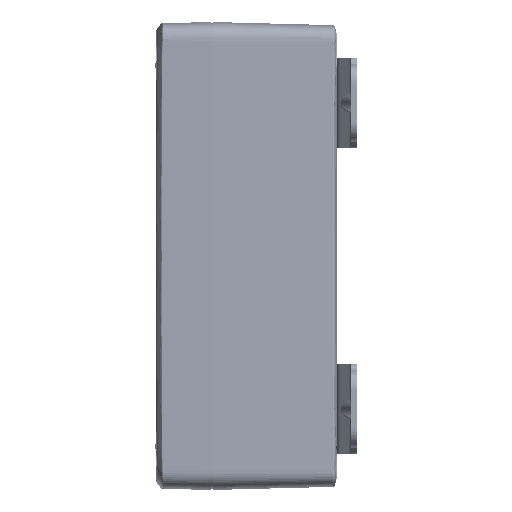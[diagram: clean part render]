
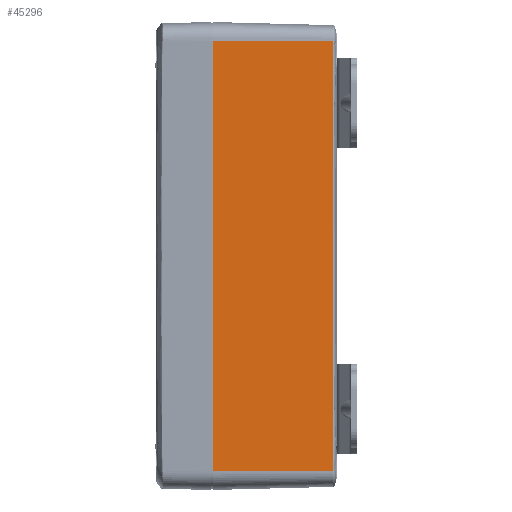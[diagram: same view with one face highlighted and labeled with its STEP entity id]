
A CAD part, left-side view. The second image highlights one B-rep face of the part: STEP entity #45296.
In plain terms, the highlighted planar face has unit normal (-1, -0.026, 0).
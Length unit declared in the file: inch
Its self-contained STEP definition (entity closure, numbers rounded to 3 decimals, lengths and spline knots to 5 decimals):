
#2660 = CARTESIAN_POINT ( 'NONE',  ( -4.5625, 1.715, -2.98495 ) ) ;
#8266 = CARTESIAN_POINT ( 'NONE',  ( -4.5625, 1.715, 2.98495 ) ) ;
#10398 = CARTESIAN_POINT ( 'NONE',  ( -4.51882, 0.04699, 0.99498 ) ) ;
#14440 = CARTESIAN_POINT ( 'NONE',  ( -4.5625, 1.715, -2.98495 ) ) ;
#18766 = CARTESIAN_POINT ( 'NONE',  ( -4.51882, 0.04698, -2.98495 ) ) ;
#30718 = PLANE ( 'NONE',  #148466 ) ;
#32164 = VERTEX_POINT ( 'NONE', #133008 ) ;
#35181 = VECTOR ( 'NONE', #101645, 39.37008 ) ;
#37417 = B_SPLINE_CURVE_WITH_KNOTS ( 'NONE', 3,
 ( #113506, #73434, #10398, #114338 ),
 .UNSPECIFIED., .F., .F.,
 ( 4, 4 ),
 ( 0., 1. ),
 .UNSPECIFIED. ) ;
#45296 = ADVANCED_FACE ( 'Face2', ( #145814 ), #30718, .T. ) ;
#49684 = CARTESIAN_POINT ( 'NONE',  ( -4.5625, 1.715, -2.98495 ) ) ;
#52523 = EDGE_CURVE ( 'NONE', #32164, #81071, #124994, .T. ) ;
#53890 = VECTOR ( 'NONE', #147274, 39.37008 ) ;
#71384 = CARTESIAN_POINT ( 'NONE',  ( -4.5625, 1.715, -2.98495 ) ) ;
#73434 = CARTESIAN_POINT ( 'NONE',  ( -4.51882, 0.04699, -0.99498 ) ) ;
#77726 = ORIENTED_EDGE ( 'NONE', *, *, #82006, .F. ) ;
#81071 = VERTEX_POINT ( 'NONE', #165731 ) ;
#82006 = EDGE_CURVE ( 'NONE', #133284, #32164, #109766, .T. ) ;
#89668 = LINE ( 'NONE', #49684, #35181 ) ;
#96290 = DIRECTION ( 'NONE',  ( -1., -0.026, 0. ) ) ;
#101645 = DIRECTION ( 'NONE',  ( 0.026, -1., 0. ) ) ;
#101658 = EDGE_CURVE ( 'NONE', #133284, #106018, #89668, .T. ) ;
#101751 = ORIENTED_EDGE ( 'NONE', *, *, #101658, .T. ) ;
#106018 = VERTEX_POINT ( 'NONE', #18766 ) ;
#107016 = EDGE_LOOP ( 'NONE', ( #101751, #130481, #160316, #77726 ) ) ;
#108261 = DIRECTION ( 'NONE',  ( 0.026, -1., 0. ) ) ;
#109766 = LINE ( 'NONE', #71384, #53890 ) ;
#113506 = CARTESIAN_POINT ( 'NONE',  ( -4.51882, 0.04698, -2.98495 ) ) ;
#114338 = CARTESIAN_POINT ( 'NONE',  ( -4.51882, 0.04699, 2.98495 ) ) ;
#116372 = EDGE_CURVE ( 'NONE', #106018, #81071, #37417, .T. ) ;
#124994 = LINE ( 'NONE', #8266, #160446 ) ;
#130481 = ORIENTED_EDGE ( 'NONE', *, *, #116372, .T. ) ;
#133008 = CARTESIAN_POINT ( 'NONE',  ( -4.5625, 1.715, 2.98495 ) ) ;
#133284 = VERTEX_POINT ( 'NONE', #14440 ) ;
#145814 = FACE_OUTER_BOUND ( 'NONE', #107016, .T. ) ;
#147274 = DIRECTION ( 'NONE',  ( 0., 0., 1. ) ) ;
#148466 = AXIS2_PLACEMENT_3D ( 'NONE', #2660, #96290, #108261 ) ;
#160316 = ORIENTED_EDGE ( 'NONE', *, *, #52523, .F. ) ;
#160446 = VECTOR ( 'NONE', #165054, 39.37008 ) ;
#165054 = DIRECTION ( 'NONE',  ( 0.026, -1., 0. ) ) ;
#165731 = CARTESIAN_POINT ( 'NONE',  ( -4.51882, 0.04699, 2.98495 ) ) ;
